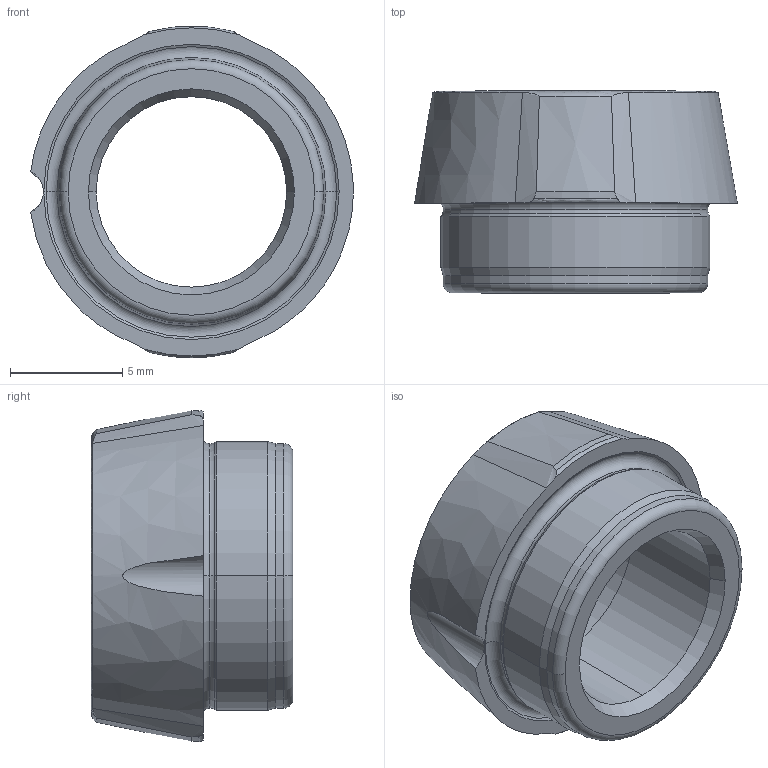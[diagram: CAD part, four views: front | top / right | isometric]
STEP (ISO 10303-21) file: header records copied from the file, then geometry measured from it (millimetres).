
FILE_DESCRIPTION (( 'STEP AP203' ), '1' );
FILE_NAME ('VXF0080-PC.STEP', '2014-11-25T04:57:25', ( '0393' ), ( 'Hewlett-Packard Company' ), 'SwSTEP 2.0', 'SolidWorks 2013', '' );
FILE_SCHEMA (( 'CONFIG_CONTROL_DESIGN' ));
Length unit declared in the file: millimetre
Products named in the file (1): VXF0080-PC
Bounding box: 14.4 x 9 x 14.79 mm (x, y, z)
Volume: 652.8 mm3; surface area: 759.8 mm2
Topology: 1 solids, 1 shells, 42 faces, 99 edges, 60 vertices
Faces by surface type: cone 16, cylinder 11, torus 10, plane 3, bspline 2
Entity records: 1446 total; most frequent: CARTESIAN_POINT 413, DIRECTION 208, ORIENTED_EDGE 198, EDGE_CURVE 99, AXIS2_PLACEMENT_3D 94, VERTEX_POINT 60, CIRCLE 53, EDGE_LOOP 45
